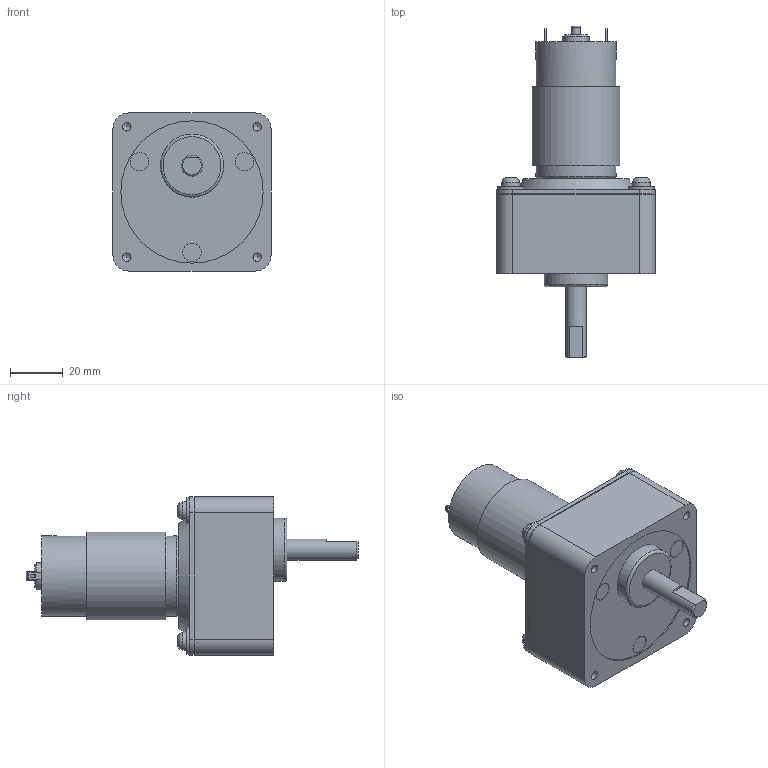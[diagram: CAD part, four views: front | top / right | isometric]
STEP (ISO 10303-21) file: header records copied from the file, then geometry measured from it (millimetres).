
FILE_DESCRIPTION((''),'2;1');
FILE_NAME('\\Servert1600\threepeace\2015homepage\STP\HP-Data_GM_3D_STEP\TP-3452A,B,C-CM-5～12.5-H00-12,24.stp','2016-11-11T11:46:26',('Administrator'),(''),'Autodesk Inventor 2010','Autodesk Inventor 2010','');
FILE_SCHEMA(('AUTOMOTIVE_DESIGN { 1 0 10303 214 1 1 1 1 }'));
Length unit declared in the file: millimetre
Products named in the file (3): TP-3452A,B,C-CM-5～12; cm_2; TP-3452A,B,C
Assembly tree (2 placements, depth 2):
  TP-3452A,B,C-CM-5～12
    cm_2
    TP-3452A,B,C
Bounding box: 60 x 126 x 60 mm (x, y, z)
Volume: 165700.9 mm3; surface area: 24134.2 mm2
Topology: 2 solids, 2 shells, 123 faces, 272 edges, 178 vertices
Faces by surface type: plane 60, cylinder 35, bspline 20, cone 4, torus 4
Full cylindrical faces by diameter (mm): 2.5 x1, 3.17 x2, 6.8 x4, 7 x3, 8 x1, 9.8 x4, 9.9 x1, 10 x1, 24 x1, 30.4 x1, 54 x1
Entity records: 3506 total; most frequent: CARTESIAN_POINT 933, DIRECTION 532, ORIENTED_EDGE 432, EDGE_CURVE 216, AXIS2_PLACEMENT_3D 210, EDGE_LOOP 195, VERTEX_POINT 165, FACE_OUTER_BOUND 123
